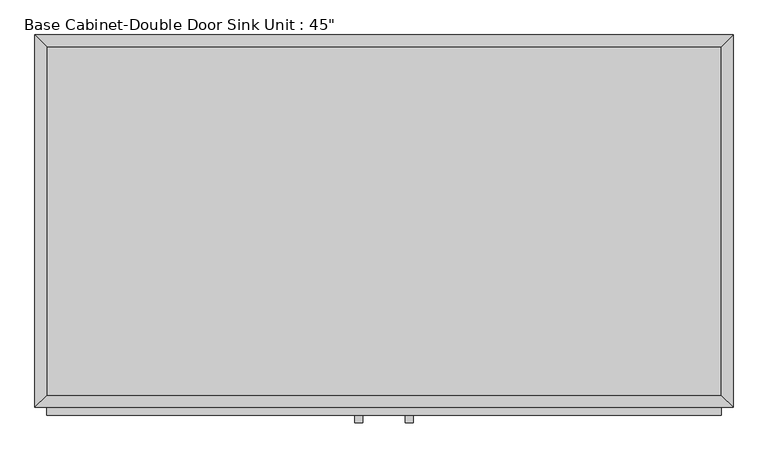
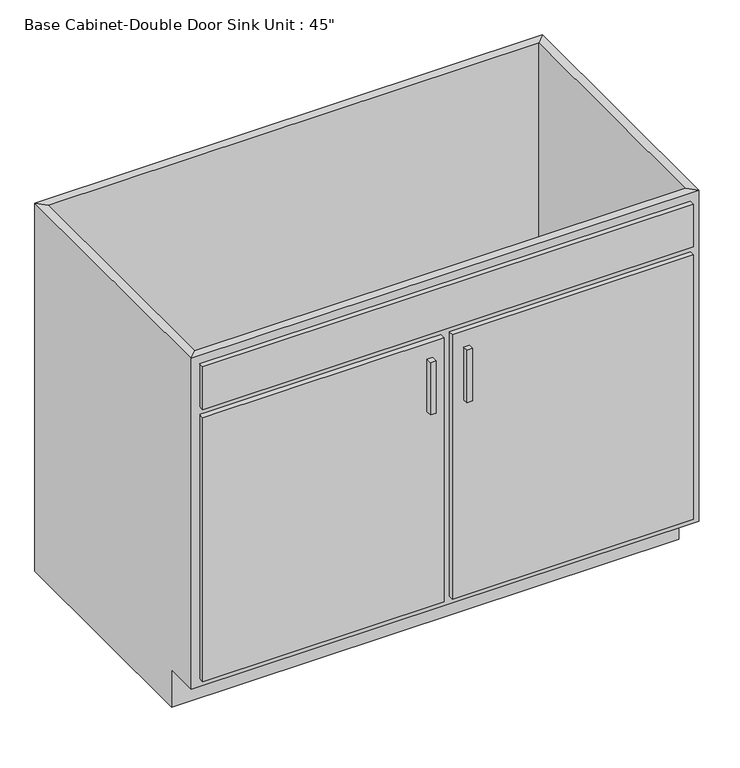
"""IFC4 building model written with IfcOpenShell, lengths in millimetres: furniture geometry."""

from ifc_helpers import new_model, si_unit, frame, origin, place, context, project, spatial, polyline, outline, extrude, faceted_brep, source, transform, mapped, element, save


def furniture_6d745834(model_context):
    return source(origin(), model_context, "Body", "SolidModel", [
        faceted_brep([(571.1877049, -590.55, 876.3), (571.1877049, -590.55, 88.9), (-533.7122951, -590.55, 88.9), (-533.7122951, -590.55, 876.3), (-552.7622951, -609.6, 876.3), (590.2377049, -609.6, 876.3), (-552.7622951, -609.6, 88.9), (590.2377049, -609.6, 88.9), (-533.7122951, -533.4, 88.9), (-533.7122951, -19.05, 88.9), (-533.7122951, -19.05, 876.3), (-552.7622951, 0.0, 876.3), (-552.7622951, 0.0, 0.0), (-552.7622951, -533.4, 0.0), (-552.7622951, -533.4, 88.9), (571.1877049, -19.05, 88.9), (571.1877049, -19.05, 876.3), (590.2377049, 0.0, 876.3), (590.2377049, 0.0, 0.0), (571.1877049, -533.4, 88.9), (590.2377049, -533.4, 88.9), (590.2377049, -533.4, 0.0)], [[[0, 1, 2, 3]], [[0, 3, 4, 5]], [[5, 4, 6, 7]], [[2, 1, 7, 6]], [[3, 2, 8, 9, 10]], [[4, 3, 10, 11]], [[6, 4, 11, 12, 13, 14]], [[2, 6, 14, 8]], [[10, 9, 15, 16]], [[11, 10, 16, 17]], [[12, 11, 17, 18]], [[1, 0, 16, 15, 19]], [[0, 5, 17, 16]], [[5, 7, 20, 21, 18, 17]], [[7, 1, 19, 20]], [[8, 19, 15, 9]], [[18, 21, 13, 12]], [[13, 21, 20, 19, 8, 14]]]),
        extrude(outline(polyline([(-16.1872951, -635.0), (-28.8872951, -635.0), (-28.8872951, -622.3), (-16.1872951, -622.3), (-16.1872951, -635.0)])), frame((0.0, 0.0, 573.769895), z_axis=(0.0, 0.0, 1.0), x_axis=(1.0, 0.0, 0.0)), (0.0, 0.0, 1.0), 124.730105),
        extrude(outline(polyline([(66.3627049, -635.0), (53.6627049, -635.0), (53.6627049, -622.3), (66.3627049, -622.3), (66.3627049, -635.0)])), frame((0.0, 0.0, 573.769895), z_axis=(0.0, 0.0, 1.0), x_axis=(1.0, 0.0, 0.0)), (0.0, 0.0, 1.0), 124.730105),
        extrude(outline(polyline([(571.1877049, -19.05), (571.1877049, -590.55), (-533.7122951, -590.55), (-533.7122951, -19.05), (571.1877049, -19.05)])), frame((0.0, 0.0, 88.9), z_axis=(0.0, 0.0, 1.0), x_axis=(1.0, 0.0, 0.0)), (0.0, 0.0, 1.0), 19.05),
        extrude(outline(polyline([(9.2127049, -622.3), (-533.7122951, -622.3), (-533.7122951, -609.6), (9.2127049, -609.6), (9.2127049, -622.3)])), frame((0.0, 0.0, 107.95), z_axis=(0.0, 0.0, 1.0), x_axis=(1.0, 0.0, 0.0)), (0.0, 0.0, 1.0), 628.65),
        extrude(outline(polyline([(571.1877049, -622.3), (28.2627049, -622.3), (28.2627049, -609.6), (571.1877049, -609.6), (571.1877049, -622.3)])), frame((0.0, 0.0, 107.95), z_axis=(0.0, 0.0, 1.0), x_axis=(1.0, 0.0, 0.0)), (0.0, 0.0, 1.0), 628.65),
        extrude(outline(polyline([(571.1877049, -622.3), (-533.7122951, -622.3), (-533.7122951, -609.6), (571.1877049, -609.6), (571.1877049, -622.3)])), frame((0.0, 0.0, 755.65), z_axis=(0.0, 0.0, 1.0), x_axis=(1.0, 0.0, 0.0)), (0.0, 0.0, 1.0), 101.6),
    ])


if __name__ == "__main__":
    model = new_model("IFC4")
    model_context = context("Model", 3, world=origin())
    ifc_project = project(units=[si_unit("LENGTHUNIT", "METRE", prefix="MILLI")], contexts=[model_context])
    site = spatial("IfcSite", under=ifc_project)
    building = spatial("IfcBuilding", under=site)
    placement = place(None, origin())
    furniture_shape = furniture_6d745834(model_context)
    element("IfcFurniture", 1, ObjectType="Base Cabinet-Double Door Sink Unit : 45\"", at=placement, inside=building, context=model_context, shape_type="MappedRepresentation", body=[
        mapped(furniture_shape, transform((0.0, 0.0, 0.0), x_axis=(1.0, 0.0, 0.0), y_axis=(0.0, 1.0, 0.0), z_axis=(0.0, 0.0, 1.0))),
    ])
    save(model, "model.ifc")
